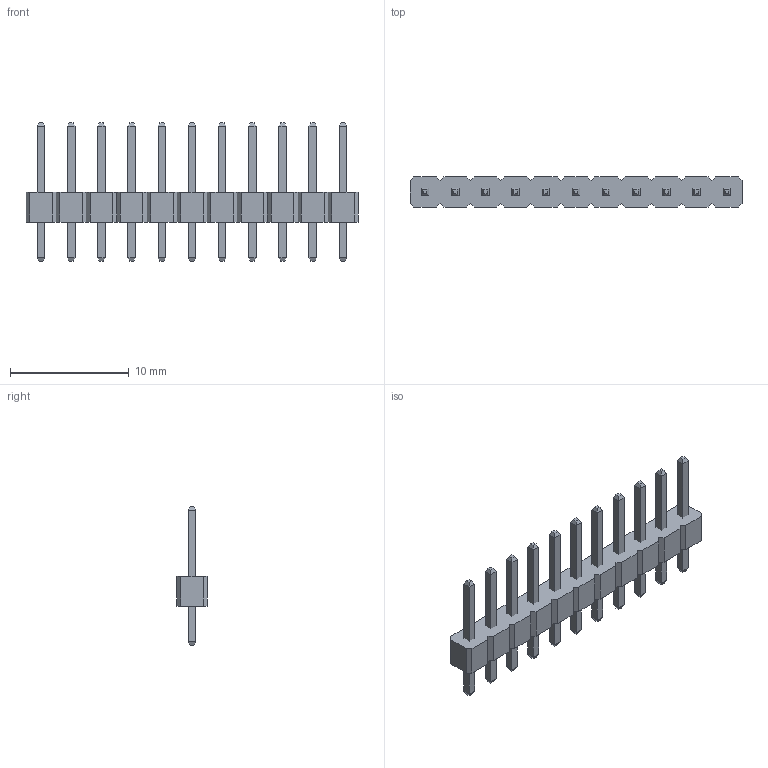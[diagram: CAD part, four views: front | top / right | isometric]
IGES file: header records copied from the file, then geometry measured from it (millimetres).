
Start section: Data from Parasolid IGES Translator 23.1.110, Copyright(c) 2006 Siemens PLM Software. All Rights Reserved.
Global section: file name: 5f3dd5c8933f190f816bcb1d.iges; native system: By Siemens PLM Incorporated; preprocessor: XPlus GENERIC/IGES 23.1.110; author: Noname; organization: Noname; date: 20200820.014545; units: metre
Bounding box: 27.94 x 2.54 x 11.68 mm (x, y, z)
Surface area: 638.5 mm2 (no closed solid volume)
Topology: 0 solids, 0 shells, 290 faces, 1288 edges, 1288 vertices
Faces by surface type: extrusion 290
